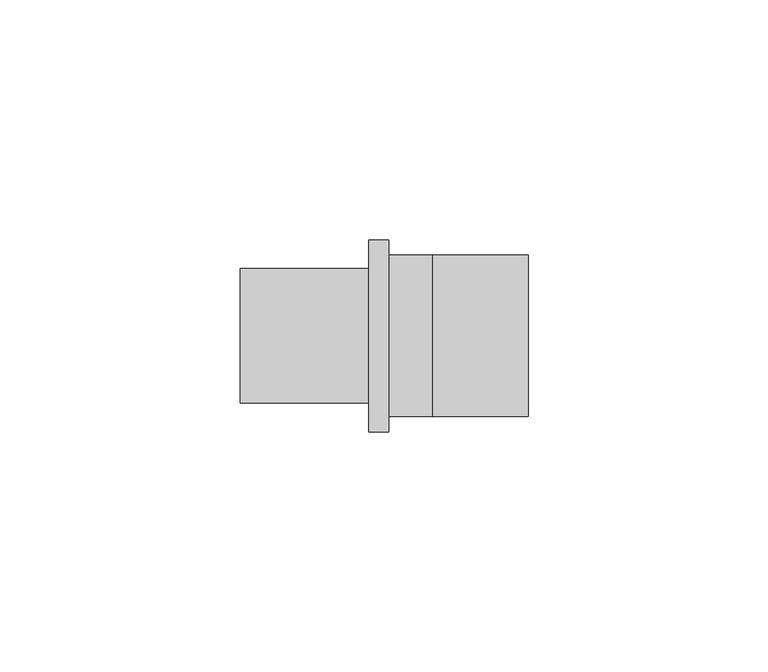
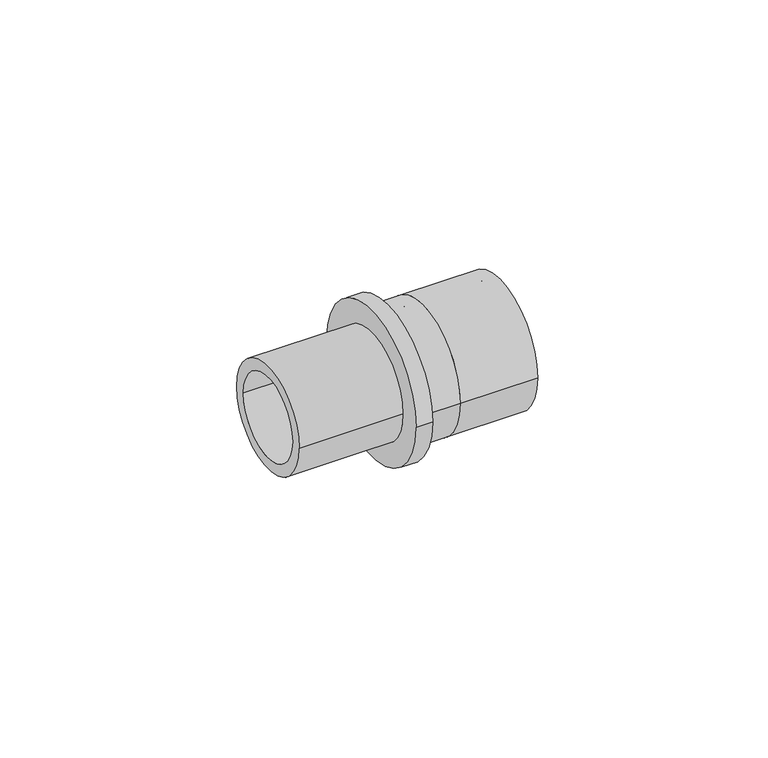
"""IFC4 building model written with IfcOpenShell, lengths in millimetres: pipe fitting geometry, Adapter with welding end : A welding LX."""

from ifc_helpers import new_model, si_unit, point, frame, origin, origin_2d, place, context, project, spatial, polyline, circle_curve, trimmed, segment, composite_curve, outline, extrude, source, transform, mapped, element, save
from ifc_brep_helpers import plane_surface, cylinder_surface, revolved_surface, advanced_brep


def pipe_fitting_f16ebe25(model_context):
    return source(origin(), model_context, "Body", "SolidModel", [
        advanced_brep(
        [(0.0, 16.8, 0.0), (0.0, -16.8, 0.0), (-9.0, -16.8, 0.0), (-9.0, 16.8, 0.0), (-9.0, 13.95, 0.0), (-9.0, -13.95, 0.0), (0.0, -13.95, 0.0), (0.0, 13.95, 0.0), (-40.0, 11.0, 0.0), (-40.0, -11.0, 0.0), (-9.0, -11.0, 0.0), (-9.0, 11.0, 0.0), (-13.2, 14.0, 0.0), (-13.2, -14.0, 0.0), (-40.0, -14.0, 0.0), (-40.0, 14.0, 0.0), (-9.0, 20.0, 0.0), (-9.0, -20.0, 0.0), (-13.2, -20.0, 0.0), (-13.2, 20.0, 0.0)],
        [
            (0, 1, circle_curve(frame((0.0, 0.0, 0.0), z_axis=(-1.0, 0.0, 0.0), x_axis=(0.0, -1.0, 0.0)), 16.8)),
            (1, 2),
            (2, 3, circle_curve(frame((-9.0, 0.0, 0.0), z_axis=(1.0, 0.0, 0.0), x_axis=(0.0, -1.0, 0.0)), 16.8)),
            (3, 0),
            (4, 5, circle_curve(frame((-9.0, 0.0, 0.0), z_axis=(-1.0, 0.0, 0.0), x_axis=(0.0, -1.0, 0.0)), 13.95)),
            (5, 6),
            (6, 7, circle_curve(frame((0.0, 0.0, 0.0), z_axis=(1.0, 0.0, 0.0), x_axis=(0.0, -1.0, 0.0)), 13.95)),
            (7, 4),
            (8, 9, circle_curve(frame((-40.0, 0.0, 0.0), z_axis=(-1.0, 0.0, 0.0), x_axis=(0.0, -1.0, 0.0)), 11.0)),
            (9, 10),
            (10, 11, circle_curve(frame((-9.0, 0.0, 0.0), z_axis=(1.0, 0.0, 0.0), x_axis=(0.0, -1.0, 0.0)), 11.0)),
            (11, 8),
            (12, 13, circle_curve(frame((-13.2, 0.0, 0.0), z_axis=(-1.0, 0.0, 0.0), x_axis=(0.0, -1.0, 0.0)), 14.0)),
            (13, 14),
            (14, 15, circle_curve(frame((-40.0, 0.0, 0.0), z_axis=(1.0, 0.0, 0.0), x_axis=(0.0, -1.0, 0.0)), 14.0)),
            (15, 12),
            (16, 17, circle_curve(frame((-9.0, 0.0, 0.0), z_axis=(-1.0, 0.0, 0.0), x_axis=(0.0, -1.0, 0.0)), 20.0)),
            (17, 18),
            (18, 19, circle_curve(frame((-13.2, 0.0, 0.0), z_axis=(1.0, 0.0, 0.0), x_axis=(0.0, -1.0, 0.0)), 20.0)),
            (19, 16),
            (16, 17, circle_curve(frame((-9.0, 0.0, 0.0), z_axis=(1.0, 0.0, 0.0), x_axis=(0.0, 1.0, 0.0)), 20.0)),
            (2, 3, circle_curve(frame((-9.0, 0.0, 0.0), z_axis=(-1.0, 0.0, 0.0), x_axis=(0.0, 1.0, 0.0)), 16.8)),
            (1, 0, circle_curve(frame((0.0, 0.0, 0.0), z_axis=(-1.0, 0.0, 0.0), x_axis=(0.0, 1.0, 0.0)), 16.8)),
            (6, 7, circle_curve(frame((0.0, 0.0, 0.0), z_axis=(-1.0, 0.0, 0.0), x_axis=(0.0, 1.0, 0.0)), 13.95)),
            (5, 4, circle_curve(frame((-9.0, 0.0, 0.0), z_axis=(-1.0, 0.0, 0.0), x_axis=(0.0, 1.0, 0.0)), 13.95)),
            (10, 11, circle_curve(frame((-9.0, 0.0, 0.0), z_axis=(-1.0, 0.0, 0.0), x_axis=(0.0, 1.0, 0.0)), 11.0)),
            (9, 8, circle_curve(frame((-40.0, 0.0, 0.0), z_axis=(-1.0, 0.0, 0.0), x_axis=(0.0, 1.0, 0.0)), 11.0)),
            (14, 15, circle_curve(frame((-40.0, 0.0, 0.0), z_axis=(-1.0, 0.0, 0.0), x_axis=(0.0, 1.0, 0.0)), 14.0)),
            (13, 12, circle_curve(frame((-13.2, 0.0, 0.0), z_axis=(-1.0, 0.0, 0.0), x_axis=(0.0, 1.0, 0.0)), 14.0)),
            (18, 19, circle_curve(frame((-13.2, 0.0, 0.0), z_axis=(-1.0, 0.0, 0.0), x_axis=(0.0, 1.0, 0.0)), 20.0)),
        ],
        [
            cylinder_surface(frame((0.0, 0.0, 0.0), z_axis=(1.0, 0.0, 0.0), x_axis=(0.0, -1.0, 0.0)), 16.8),
            revolved_surface(polyline([(0.0, -13.95, 0.0), (-9.0, -13.95, 0.0)]), (0.0, 0.0, 0.0), (1.0, 0.0, 0.0)),
            revolved_surface(polyline([(-9.0, -11.0, 0.0), (-40.0, -11.0, 0.0)]), (0.0, 0.0, 0.0), (1.0, 0.0, 0.0)),
            cylinder_surface(frame((0.0, 0.0, 0.0), z_axis=(1.0, 0.0, 0.0), x_axis=(0.0, -1.0, 0.0)), 14.0),
            cylinder_surface(frame((0.0, 0.0, 0.0), z_axis=(1.0, 0.0, 0.0), x_axis=(0.0, -1.0, 0.0)), 20.0),
            plane_surface(frame((-9.0, 0.0, 0.0), z_axis=(1.0, 0.0, 0.0), x_axis=(0.0, 1.0, 0.0))),
            cylinder_surface(frame((0.0, 0.0, 0.0), z_axis=(1.0, 0.0, 0.0), x_axis=(0.0, 1.0, 0.0)), 16.8),
            plane_surface(frame((0.0, 0.0, 0.0), z_axis=(1.0, 0.0, 0.0), x_axis=(0.0, 1.0, 0.0))),
            revolved_surface(polyline([(0.0, 13.95, 0.0), (-9.0, 13.95, 0.0)]), (0.0, 0.0, 0.0), (1.0, 0.0, 0.0)),
            revolved_surface(polyline([(-9.0, 11.0, 0.0), (-40.0, 11.0, 0.0)]), (0.0, 0.0, 0.0), (1.0, 0.0, 0.0)),
            plane_surface(frame((-40.0, 0.0, 0.0), z_axis=(-1.0, 0.0, 0.0), x_axis=(0.0, 1.0, 0.0))),
            cylinder_surface(frame((0.0, 0.0, 0.0), z_axis=(1.0, 0.0, 0.0), x_axis=(0.0, 1.0, 0.0)), 14.0),
            plane_surface(frame((-13.2, 0.0, 0.0), z_axis=(-1.0, 0.0, 0.0), x_axis=(0.0, 1.0, 0.0))),
            cylinder_surface(frame((0.0, 0.0, 0.0), z_axis=(1.0, 0.0, 0.0), x_axis=(0.0, 1.0, 0.0)), 20.0),
        ],
        [
            (0, [[1, 2, 3, 4]]),
            (1, [[5, 6, 7, 8]]),
            (2, [[9, 10, 11, 12]]),
            (3, [[13, 14, 15, 16]]),
            (4, [[17, 18, 19, 20]]),
            (5, [[21, -17], [22, -3]]),
            (6, [[23, -4, -22, -2]]),
            (7, [[-23, -1], [24, -7]]),
            (8, [[25, -8, -24, -6]]),
            (5, [[-25, -5], [26, -11]]),
            (9, [[27, -12, -26, -10]]),
            (10, [[28, -15], [-27, -9]]),
            (11, [[29, -16, -28, -14]]),
            (12, [[30, -19], [-29, -13]]),
            (13, [[-21, -20, -30, -18]]),
        ],
    ),
        extrude(outline(composite_curve([segment(trimmed(circle_curve(origin_2d(), 16.8), [point((-16.8, 0.0))], [point((16.8, 0.0))], False, "CARTESIAN"), True, "CONTINUOUS"), segment(trimmed(circle_curve(origin_2d(), 16.8), [point((16.8, 0.0))], [point((-16.8, 0.0))], False, "CARTESIAN"), True, "CONTINUOUS")], self_intersect=False), holes=[composite_curve([segment(trimmed(circle_curve(origin_2d(), 13.95), [point((13.95, 0.0))], [point((-13.95, 0.0))], True, "CARTESIAN"), True, "CONTINUOUS"), segment(trimmed(circle_curve(origin_2d(), 13.95), [point((-13.95, 0.0))], [point((13.95, 0.0))], True, "CARTESIAN"), True, "CONTINUOUS")], self_intersect=False)]), frame((0.0, 0.0, 0.0), z_axis=(1.0, 0.0, 0.0), x_axis=(0.0, 1.0, 0.0)), (0.0, 0.0, 1.0), 20.0),
    ])


if __name__ == "__main__":
    model = new_model("IFC4")
    model_context = context("Model", 3, world=origin())
    ifc_project = project(units=[si_unit("LENGTHUNIT", "METRE", prefix="MILLI")], contexts=[model_context])
    site = spatial("IfcSite", under=ifc_project)
    building = spatial("IfcBuilding", under=site)
    placement = place(None, origin())
    pipe_fitting_shape = pipe_fitting_f16ebe25(model_context)
    element("IfcPipeFitting", 1, ObjectType="Adapter with welding end : A welding LX", at=placement, inside=building, context=model_context, shape_type="MappedRepresentation", body=[
        mapped(pipe_fitting_shape, transform((0.0, 0.0, 0.0), x_axis=(1.0, 0.0, 0.0), y_axis=(0.0, 1.0, 0.0), z_axis=(0.0, 0.0, 1.0))),
    ])
    save(model, "model.ifc")
